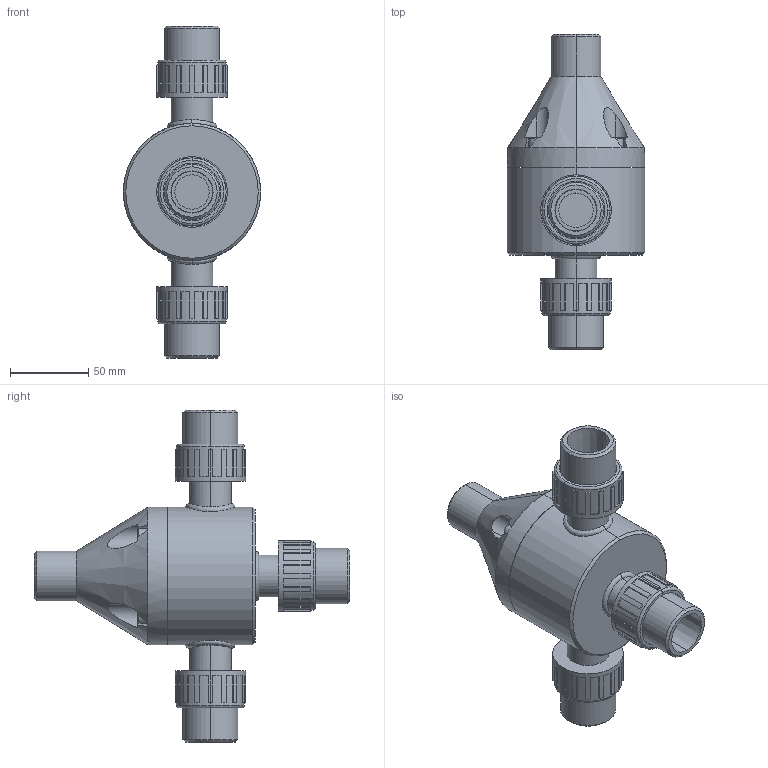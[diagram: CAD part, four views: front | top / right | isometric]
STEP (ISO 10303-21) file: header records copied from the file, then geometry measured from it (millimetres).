
FILE_DESCRIPTION (( 'STEP AP203' ), '1' );
FILE_NAME ('GPR0750-UNION.STEP', '2016-09-01T08:56:00', ( '' ), ( '' ), 'SwSTEP 2.0', 'SolidWorks 2014', '' );
FILE_SCHEMA (( 'CONFIG_CONTROL_DESIGN' ));
Length unit declared in the file: inch
Products named in the file (2): GPR0750-UNION
Bounding box: 87.63 x 201.29 x 211.84 mm (x, y, z)
Volume: 695037.8 mm3; surface area: 89212.2 mm2
Topology: 1 solids, 4 shells, 397 faces, 1036 edges, 676 vertices
Faces by surface type: plane 285, cylinder 66, cone 30, torus 10, bspline 6
Entity records: 14486 total; most frequent: CARTESIAN_POINT 4300, DIRECTION 2174, ORIENTED_EDGE 2072, EDGE_CURVE 1036, AXIS2_PLACEMENT_3D 781, VERTEX_POINT 676, VECTOR 612, LINE 612
